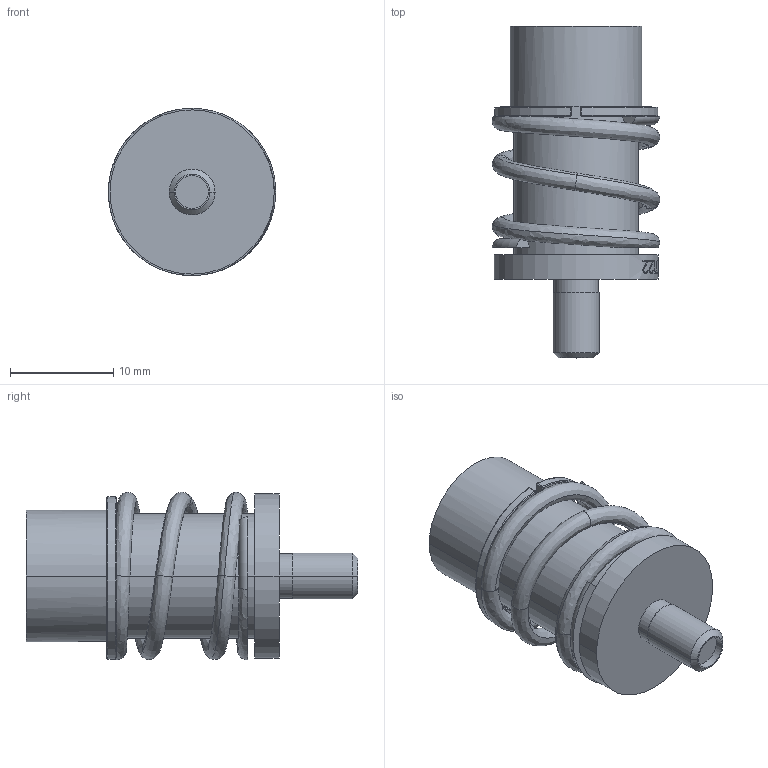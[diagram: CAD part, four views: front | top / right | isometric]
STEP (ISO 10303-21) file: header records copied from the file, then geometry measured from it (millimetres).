
FILE_DESCRIPTION((''),'2;1');
FILE_NAME('PRT0025','2019-12-06T17:40:22',('Anthony.Gnas'),('Carlisle Interconnect Technologies'),'CREO PARAMETRIC BY PTC INC, 2017260','CREO PARAMETRIC BY PTC INC, 2017260','');
FILE_SCHEMA(('AUTOMOTIVE_DESIGN { 1 0 10303 214 1 1 1 1 }'));
Length unit declared in the file: inch
Products named in the file (1): PRT0025
Bounding box: 16.18 x 32.08 x 16.17 mm (x, y, z)
Volume: 2935.2 mm3; surface area: 3090.9 mm2
Topology: 1 solids, 1 shells, 322 faces, 879 edges, 567 vertices
Faces by surface type: bspline 130, plane 111, cylinder 49, torus 18, cone 10, sphere 4
Entity records: 19688 total; most frequent: CARTESIAN_POINT 10042, ORIENTED_EDGE 1758, DIRECTION 1224, EDGE_CURVE 879, VERTEX_POINT 567, AXIS2_PLACEMENT_3D 439, VECTOR 346, LINE 346
